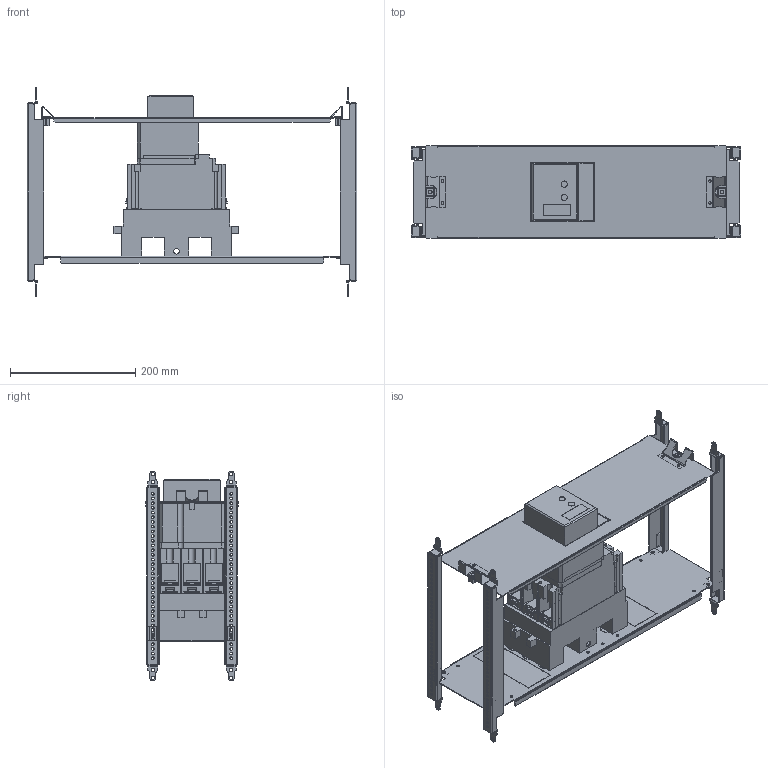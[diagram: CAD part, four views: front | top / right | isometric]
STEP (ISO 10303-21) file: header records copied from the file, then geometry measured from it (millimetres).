
FILE_DESCRIPTION(('CAx-IF Rec.Pracs.---Model Styling and Organization---1.2---2011-12-15','CAx-IF Rec.Pracs.---Geometric and Assembly Validation Properties---4.1---2014-06-16','CAx-IF Rec.Pracs.---PMI Polyline Presentation---2.0---2013-05-24'),'2;1');
FILE_NAME('R5PKIB7H62213 (P-MO).stp','2021-07-29T03:07:30+03:00',(''),(''),'STEP Interface 4.4 by CT CoreTechnologie','3D_Evolution4.4 by CT CoreTechnologie','');
FILE_SCHEMA(('AUTOMOTIVE_DESIGN { 1 0 10303 214 1 1 1 1 }'));
Length unit declared in the file: millimetre
Products named in the file (1): R5PKIB7H62213 (P-MO)
Bounding box: 526 x 148 x 335 mm (x, y, z)
Surface area: 756122.2 mm2 (no closed solid volume)
Topology: 0 solids, 50 shells, 1940 faces, 5726 edges, 3894 vertices
Faces by surface type: plane 1228, cylinder 645, bspline 67
Entity records: 66457 total; most frequent: CARTESIAN_POINT 12533, ORIENTED_EDGE 11426, DIRECTION 10816, EDGE_CURVE 5716, VECTOR 4328, LINE 4328, VERTEX_POINT 3911, AXIS2_PLACEMENT_3D 3244
